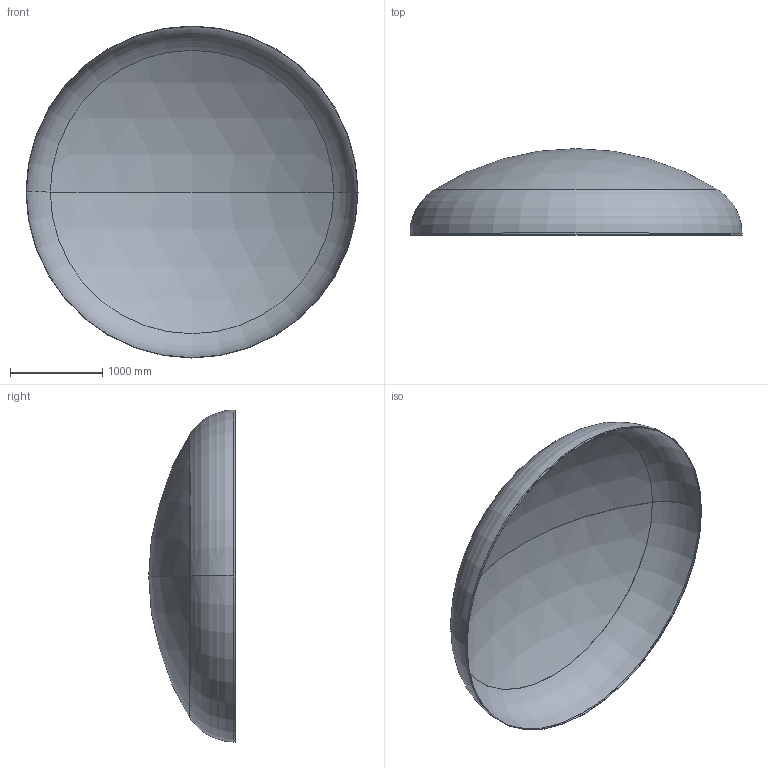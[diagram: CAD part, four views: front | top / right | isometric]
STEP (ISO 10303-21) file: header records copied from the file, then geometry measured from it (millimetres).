
FILE_DESCRIPTION (( 'STEP AP203' ), '1' );
FILE_NAME ('DIN 28013 Korbbogenform_-_Boden DIN 28013 - 3600 x 20 - I - s=4.step', '2016-07-01T20:00:29', ( '' ), ( '' ), 'SwSTEP 2.0', 'SolidWorks 2013', '' );
FILE_SCHEMA (( 'CONFIG_CONTROL_DESIGN' ));
Length unit declared in the file: millimetre
Products named in the file (1): DIN 28013 Korbbogenform_-_Boden DIN 28013 - 3600 x 20 - I - s=4
Bounding box: 3600 x 937.9 x 3600 mm (x, y, z)
Volume: 57228907.8 mm3; surface area: 28659664.2 mm2
Topology: 1 solids, 1 shells, 13 faces, 24 edges, 14 vertices
Faces by surface type: torus 4, cylinder 4, sphere 4, plane 1
Entity records: 407 total; most frequent: DIRECTION 72, CARTESIAN_POINT 52, ORIENTED_EDGE 48, AXIS2_PLACEMENT_3D 34, EDGE_CURVE 24, CIRCLE 20, EDGE_LOOP 14, VERTEX_POINT 14
